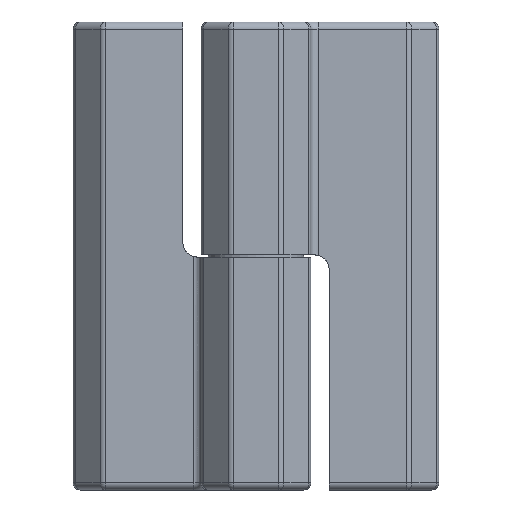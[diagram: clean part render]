
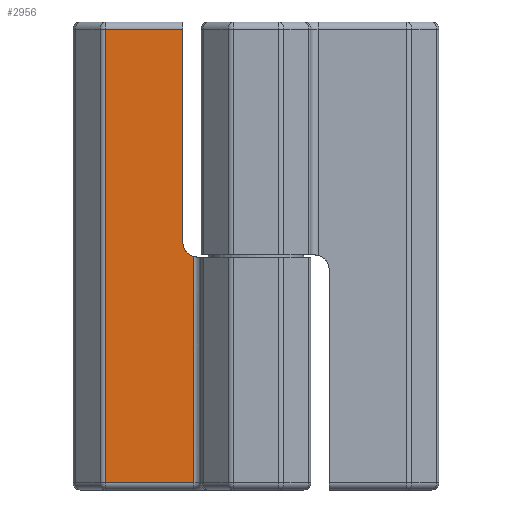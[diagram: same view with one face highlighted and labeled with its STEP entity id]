
A CAD part, front view. The second image highlights one B-rep face of the part: STEP entity #2956.
In plain terms, the highlighted planar face has unit normal (0, -1, 0).
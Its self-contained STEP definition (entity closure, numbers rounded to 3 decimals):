
#793=CARTESIAN_POINT('',(-17.5,0.0,-1.0));
#794=VERTEX_POINT('',#793);
#802=CARTESIAN_POINT('',(-17.5,0.0,-30.15));
#803=VERTEX_POINT('',#802);
#804=CARTESIAN_POINT('',(-17.5,0.0,-1.0));
#805=DIRECTION('',(0.0,0.0,-1.0));
#806=VECTOR('',#805,29.15);
#807=LINE('',#804,#806);
#808=EDGE_CURVE('',#794,#803,#807,.T.);
#824=CARTESIAN_POINT('',(-16.0,0.0,-32.086));
#825=VERTEX_POINT('',#824);
#826=CARTESIAN_POINT('',(-15.5,0.0,-30.15));
#827=DIRECTION('',(0.0,-1.0,0.0));
#828=DIRECTION('',(-1.0,0.0,0.0));
#829=AXIS2_PLACEMENT_3D('',#826,#827,#828);
#830=CIRCLE('',#829,2.0);
#831=EDGE_CURVE('',#803,#825,#830,.T.);
#2887=CARTESIAN_POINT('',(-28.086,0.0,-1.0));
#2888=VERTEX_POINT('',#2887);
#2913=CARTESIAN_POINT('',(-17.5,0.0,-1.0));
#2914=DIRECTION('',(-1.0,0.0,0.0));
#2915=VECTOR('',#2914,10.586);
#2916=LINE('',#2913,#2915);
#2917=EDGE_CURVE('',#794,#2888,#2916,.T.);
#2924=CARTESIAN_POINT('',(-28.5,0.0,0.0));
#2925=DIRECTION('',(0.0,1.0,0.0));
#2926=DIRECTION('',(0.0,0.0,1.0));
#2927=AXIS2_PLACEMENT_3D('',#2924,#2925,#2926);
#2928=PLANE('',#2927);
#2929=ORIENTED_EDGE('',*,*,#831,.F.);
#2930=ORIENTED_EDGE('',*,*,#808,.F.);
#2931=ORIENTED_EDGE('',*,*,#2917,.T.);
#2932=CARTESIAN_POINT('',(-28.086,0.0,-63.0));
#2933=VERTEX_POINT('',#2932);
#2934=CARTESIAN_POINT('',(-28.086,0.0,-63.0));
#2935=DIRECTION('',(0.0,0.0,1.0));
#2936=VECTOR('',#2935,62.0);
#2937=LINE('',#2934,#2936);
#2938=EDGE_CURVE('',#2933,#2888,#2937,.T.);
#2939=ORIENTED_EDGE('',*,*,#2938,.F.);
#2940=CARTESIAN_POINT('',(-16.0,0.0,-63.0));
#2941=VERTEX_POINT('',#2940);
#2942=CARTESIAN_POINT('',(-28.086,0.0,-63.0));
#2943=DIRECTION('',(1.0,0.0,0.0));
#2944=VECTOR('',#2943,12.086);
#2945=LINE('',#2942,#2944);
#2946=EDGE_CURVE('',#2933,#2941,#2945,.T.);
#2947=ORIENTED_EDGE('',*,*,#2946,.T.);
#2948=CARTESIAN_POINT('',(-16.0,0.0,-32.086));
#2949=DIRECTION('',(0.0,0.0,-1.0));
#2950=VECTOR('',#2949,30.914);
#2951=LINE('',#2948,#2950);
#2952=EDGE_CURVE('',#825,#2941,#2951,.T.);
#2953=ORIENTED_EDGE('',*,*,#2952,.F.);
#2954=EDGE_LOOP('',(#2929,#2930,#2931,#2939,#2947,#2953));
#2955=FACE_OUTER_BOUND('',#2954,.T.);
#2956=ADVANCED_FACE('',(#2955),#2928,.F.);
